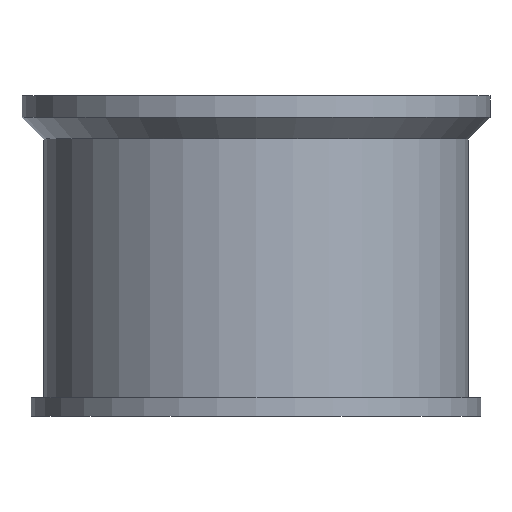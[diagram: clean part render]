
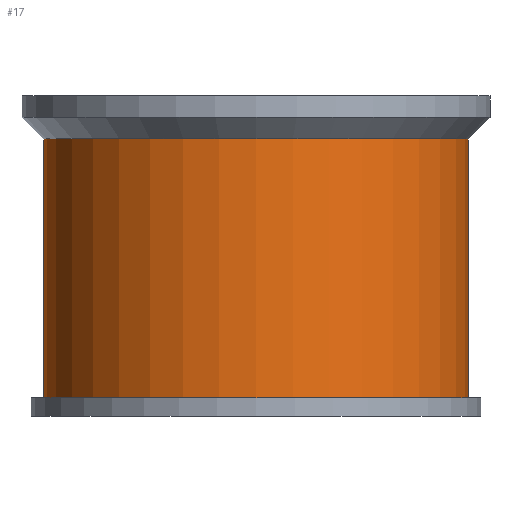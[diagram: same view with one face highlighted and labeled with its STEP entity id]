
A CAD part, front view. The second image highlights one B-rep face of the part: STEP entity #17.
In plain terms, the highlighted cylindrical face has radius 3.45 mm (diameter 6.9 mm), a full revolution.
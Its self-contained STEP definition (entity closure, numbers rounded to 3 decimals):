
#17 = ADVANCED_FACE('',(#18),#31,.T.);
#18 = FACE_BOUND('',#19,.T.);
#19 = EDGE_LOOP('',(#20,#54,#77,#104));
#20 = ORIENTED_EDGE('',*,*,#21,.T.);
#21 = EDGE_CURVE('',#22,#22,#24,.T.);
#22 = VERTEX_POINT('',#23);
#23 = CARTESIAN_POINT('',(3.45,0.,0.3));
#24 = SURFACE_CURVE('',#25,(#30,#42),.PCURVE_S1.);
#25 = CIRCLE('',#26,3.45);
#26 = AXIS2_PLACEMENT_3D('',#27,#28,#29);
#27 = CARTESIAN_POINT('',(0.,0.,0.3));
#28 = DIRECTION('',(0.,0.,1.));
#29 = DIRECTION('',(1.,0.,-0.));
#30 = PCURVE('',#31,#36);
#31 = CYLINDRICAL_SURFACE('',#32,3.45);
#32 = AXIS2_PLACEMENT_3D('',#33,#34,#35);
#33 = CARTESIAN_POINT('',(0.,0.,0.));
#34 = DIRECTION('',(0.,0.,1.));
#35 = DIRECTION('',(1.,0.,-0.));
#36 = DEFINITIONAL_REPRESENTATION('',(#37),#41);
#37 = LINE('',#38,#39);
#38 = CARTESIAN_POINT('',(0.,0.3));
#39 = VECTOR('',#40,1.);
#40 = DIRECTION('',(1.,0.));
#41 = ( GEOMETRIC_REPRESENTATION_CONTEXT(2) 
PARAMETRIC_REPRESENTATION_CONTEXT() REPRESENTATION_CONTEXT('2D SPACE',''
  ) );
#42 = PCURVE('',#43,#48);
#43 = PLANE('',#44);
#44 = AXIS2_PLACEMENT_3D('',#45,#46,#47);
#45 = CARTESIAN_POINT('',(0.,0.,0.3));
#46 = DIRECTION('',(0.,0.,1.));
#47 = DIRECTION('',(1.,0.,-0.));
#48 = DEFINITIONAL_REPRESENTATION('',(#49),#53);
#49 = CIRCLE('',#50,3.45);
#50 = AXIS2_PLACEMENT_2D('',#51,#52);
#51 = CARTESIAN_POINT('',(0.,0.));
#52 = DIRECTION('',(1.,0.));
#53 = ( GEOMETRIC_REPRESENTATION_CONTEXT(2) 
PARAMETRIC_REPRESENTATION_CONTEXT() REPRESENTATION_CONTEXT('2D SPACE',''
  ) );
#54 = ORIENTED_EDGE('',*,*,#55,.T.);
#55 = EDGE_CURVE('',#22,#56,#58,.T.);
#56 = VERTEX_POINT('',#57);
#57 = CARTESIAN_POINT('',(3.45,0.,4.5));
#58 = SEAM_CURVE('',#59,(#63,#70),.PCURVE_S1.);
#59 = LINE('',#60,#61);
#60 = CARTESIAN_POINT('',(3.45,0.,0.));
#61 = VECTOR('',#62,1.);
#62 = DIRECTION('',(0.,0.,1.));
#63 = PCURVE('',#31,#64);
#64 = DEFINITIONAL_REPRESENTATION('',(#65),#69);
#65 = LINE('',#66,#67);
#66 = CARTESIAN_POINT('',(0.,-0.));
#67 = VECTOR('',#68,1.);
#68 = DIRECTION('',(0.,1.));
#69 = ( GEOMETRIC_REPRESENTATION_CONTEXT(2) 
PARAMETRIC_REPRESENTATION_CONTEXT() REPRESENTATION_CONTEXT('2D SPACE',''
  ) );
#70 = PCURVE('',#31,#71);
#71 = DEFINITIONAL_REPRESENTATION('',(#72),#76);
#72 = LINE('',#73,#74);
#73 = CARTESIAN_POINT('',(6.283,-0.));
#74 = VECTOR('',#75,1.);
#75 = DIRECTION('',(0.,1.));
#76 = ( GEOMETRIC_REPRESENTATION_CONTEXT(2) 
PARAMETRIC_REPRESENTATION_CONTEXT() REPRESENTATION_CONTEXT('2D SPACE',''
  ) );
#77 = ORIENTED_EDGE('',*,*,#78,.F.);
#78 = EDGE_CURVE('',#56,#56,#79,.T.);
#79 = SURFACE_CURVE('',#80,(#85,#92),.PCURVE_S1.);
#80 = CIRCLE('',#81,3.45);
#81 = AXIS2_PLACEMENT_3D('',#82,#83,#84);
#82 = CARTESIAN_POINT('',(0.,0.,4.5));
#83 = DIRECTION('',(0.,0.,1.));
#84 = DIRECTION('',(1.,0.,-0.));
#85 = PCURVE('',#31,#86);
#86 = DEFINITIONAL_REPRESENTATION('',(#87),#91);
#87 = LINE('',#88,#89);
#88 = CARTESIAN_POINT('',(0.,4.5));
#89 = VECTOR('',#90,1.);
#90 = DIRECTION('',(1.,0.));
#91 = ( GEOMETRIC_REPRESENTATION_CONTEXT(2) 
PARAMETRIC_REPRESENTATION_CONTEXT() REPRESENTATION_CONTEXT('2D SPACE',''
  ) );
#92 = PCURVE('',#93,#98);
#93 = CONICAL_SURFACE('',#94,3.45,0.785);
#94 = AXIS2_PLACEMENT_3D('',#95,#96,#97);
#95 = CARTESIAN_POINT('',(0.,0.,4.5));
#96 = DIRECTION('',(0.,0.,1.));
#97 = DIRECTION('',(1.,0.,-0.));
#98 = DEFINITIONAL_REPRESENTATION('',(#99),#103);
#99 = LINE('',#100,#101);
#100 = CARTESIAN_POINT('',(0.,0.));
#101 = VECTOR('',#102,1.);
#102 = DIRECTION('',(1.,0.));
#103 = ( GEOMETRIC_REPRESENTATION_CONTEXT(2) 
PARAMETRIC_REPRESENTATION_CONTEXT() REPRESENTATION_CONTEXT('2D SPACE',''
  ) );
#104 = ORIENTED_EDGE('',*,*,#55,.F.);
